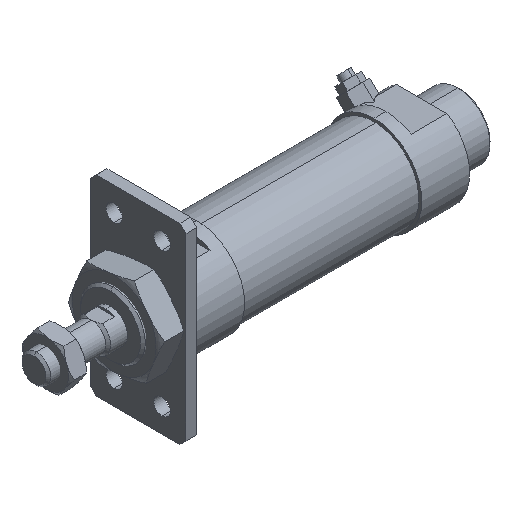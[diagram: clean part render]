
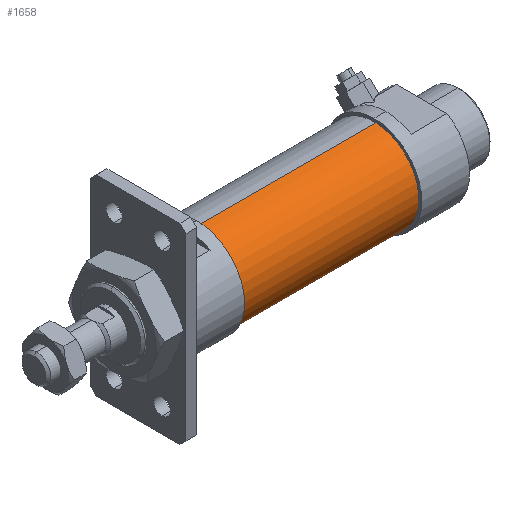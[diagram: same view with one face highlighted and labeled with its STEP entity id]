
A CAD part, isometric view. The second image highlights one B-rep face of the part: STEP entity #1658.
In plain terms, the highlighted cylindrical face has radius 18.8 mm (diameter 37.6 mm), a partial arc.
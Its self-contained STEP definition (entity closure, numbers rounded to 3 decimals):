
#13 = DIRECTION ( 'NONE',  ( 0., 0., -1. ) ) ;
#175 = EDGE_LOOP ( 'NONE', ( #4696, #642, #2783, #2376 ) ) ;
#265 = CARTESIAN_POINT ( 'NONE',  ( 37., 0., 18.8 ) ) ;
#306 = CARTESIAN_POINT ( 'NONE',  ( 37., 0., -18.8 ) ) ;
#552 = VECTOR ( 'NONE', #4658, 1000. ) ;
#568 = DIRECTION ( 'NONE',  ( 0., 0., 1. ) ) ;
#642 = ORIENTED_EDGE ( 'NONE', *, *, #4283, .F. ) ;
#718 = CIRCLE ( 'NONE', #3514, 18.8 ) ;
#825 = VECTOR ( 'NONE', #3452, 1000. ) ;
#860 = CARTESIAN_POINT ( 'NONE',  ( 37., 0., 18.8 ) ) ;
#955 = CARTESIAN_POINT ( 'NONE',  ( -37., 0., 0. ) ) ;
#1271 = AXIS2_PLACEMENT_3D ( 'NONE', #4441, #2083, #3386 ) ;
#1318 = CARTESIAN_POINT ( 'NONE',  ( 37., 0., -18.8 ) ) ;
#1505 = VERTEX_POINT ( 'NONE', #306 ) ;
#1658 = ADVANCED_FACE ( 'NONE', ( #2979 ), #4293, .T. ) ;
#1876 = CARTESIAN_POINT ( 'NONE',  ( -37., 0., -18.8 ) ) ;
#1941 = CARTESIAN_POINT ( 'NONE',  ( 37., 0., 0. ) ) ;
#2083 = DIRECTION ( 'NONE',  ( 1., 0., 0. ) ) ;
#2093 = VERTEX_POINT ( 'NONE', #1876 ) ;
#2107 = DIRECTION ( 'NONE',  ( -1., 0., 0. ) ) ;
#2219 = VERTEX_POINT ( 'NONE', #265 ) ;
#2376 = ORIENTED_EDGE ( 'NONE', *, *, #2833, .T. ) ;
#2768 = LINE ( 'NONE', #860, #825 ) ;
#2783 = ORIENTED_EDGE ( 'NONE', *, *, #5201, .T. ) ;
#2833 = EDGE_CURVE ( 'NONE', #2911, #2093, #718, .T. ) ;
#2911 = VERTEX_POINT ( 'NONE', #3823 ) ;
#2979 = FACE_OUTER_BOUND ( 'NONE', #175, .T. ) ;
#3320 = CIRCLE ( 'NONE', #1271, 18.8 ) ;
#3386 = DIRECTION ( 'NONE',  ( 0., 0., -1. ) ) ;
#3452 = DIRECTION ( 'NONE',  ( -1., 0., 0. ) ) ;
#3514 = AXIS2_PLACEMENT_3D ( 'NONE', #955, #5414, #13 ) ;
#3823 = CARTESIAN_POINT ( 'NONE',  ( -37., 0., 18.8 ) ) ;
#3884 = AXIS2_PLACEMENT_3D ( 'NONE', #1941, #2107, #568 ) ;
#4137 = LINE ( 'NONE', #1318, #552 ) ;
#4283 = EDGE_CURVE ( 'NONE', #2219, #1505, #3320, .T. ) ;
#4293 = CYLINDRICAL_SURFACE ( 'NONE', #3884, 18.8 ) ;
#4441 = CARTESIAN_POINT ( 'NONE',  ( 37., 0., 0. ) ) ;
#4658 = DIRECTION ( 'NONE',  ( -1., 0., 0. ) ) ;
#4696 = ORIENTED_EDGE ( 'NONE', *, *, #5090, .F. ) ;
#5090 = EDGE_CURVE ( 'NONE', #1505, #2093, #4137, .T. ) ;
#5201 = EDGE_CURVE ( 'NONE', #2219, #2911, #2768, .T. ) ;
#5414 = DIRECTION ( 'NONE',  ( 1., 0., 0. ) ) ;
